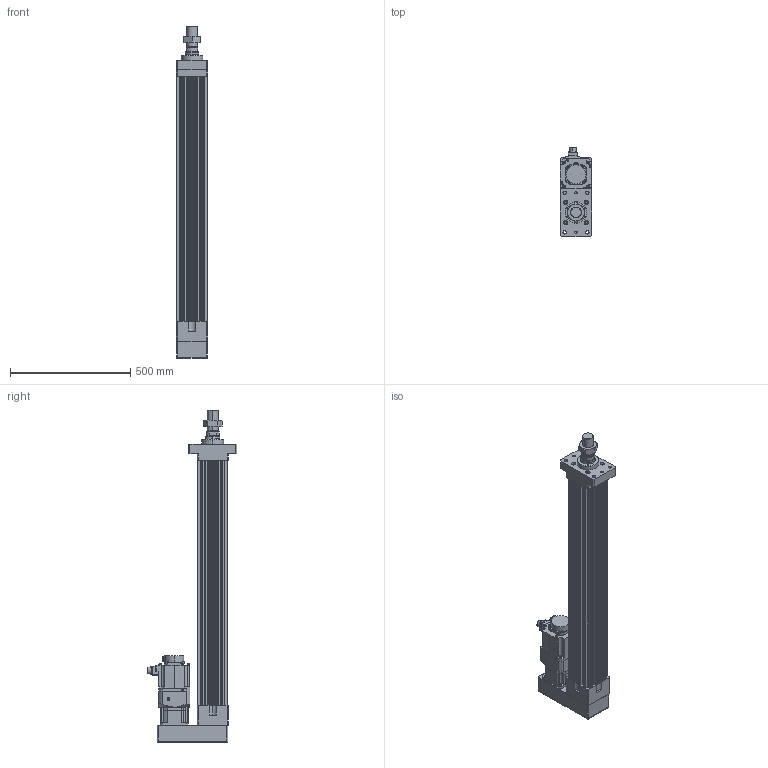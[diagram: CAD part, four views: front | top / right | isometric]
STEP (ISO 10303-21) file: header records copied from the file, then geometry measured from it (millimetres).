
FILE_DESCRIPTION (( 'STEP AP203' ), '1' );
FILE_NAME ('HES130NS(FS)(HS)-P800-W015G00-M-FMB.STEP', '2023-01-29T05:56:14', ( 'tms' ), ( '' ), 'SwSTEP 2.0', 'SolidWorks 2013', '' );
FILE_SCHEMA (( 'CONFIG_CONTROL_DESIGN' ));
Length unit declared in the file: millimetre
Products named in the file (8): HG-SR152; HES130NS(FS)(HS)-P800-W015G00-M-FMB; AB1151; HES130-P800-G120-FMB; M45X1.5P; AB115-003[HG-SR152]; P0401400706; HES130 ROD M ST800
Assembly tree (7 placements, depth 3):
  HES130NS(FS)(HS)-P800-W015G00-M-FMB
    HES130-P800-G120-FMB
    HES130 ROD M ST800
    M45X1.5P
    AB115-003[HG-SR152]
      AB1151
      P0401400706
    HG-SR152
Bounding box: 130 x 372.49 x 1382 mm (x, y, z)
Volume: 14855409.3 mm3; surface area: 1856136.1 mm2
Topology: 4 solids, 11 shells, 1082 faces, 2768 edges, 1799 vertices
Faces by surface type: cylinder 513, plane 489, cone 68, bspline 8, torus 4
Entity records: 34626 total; most frequent: CARTESIAN_POINT 6632, DIRECTION 5993, ORIENTED_EDGE 5484, EDGE_CURVE 2752, AXIS2_PLACEMENT_3D 2228, VERTEX_POINT 1799, LINE 1537, VECTOR 1537
